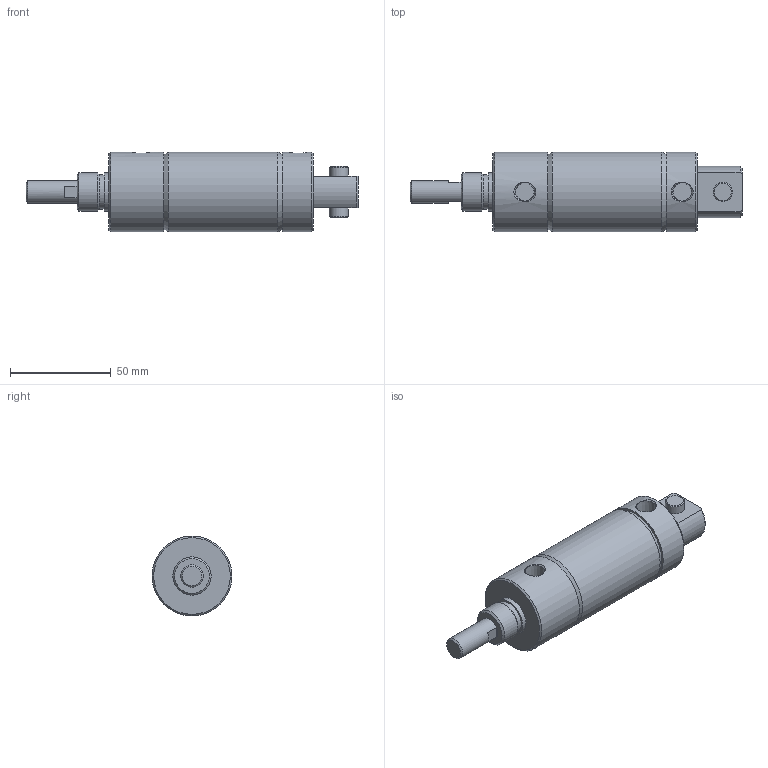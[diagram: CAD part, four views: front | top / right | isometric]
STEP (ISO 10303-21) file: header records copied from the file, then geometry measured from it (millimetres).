
FILE_DESCRIPTION( ( 'STEP AP214' ), '1' );
FILE_NAME( 'p:/temp/worker_504/temp/exporttempdir_5036_332_fAnEg/format_0/1500D02-01A-03.stp', '2020-05-07T18:41:28', ( 'License CC BY-ND 4.0' ), ( 'CADENAS' ), ' ', 'PARTsolutions', ' ' );
FILE_SCHEMA( ( 'AUTOMOTIVE_DESIGN { 1 0 10303 214 1 1 1 1 }' ) );
Length unit declared in the file: inch
Products named in the file (3): 1500D02-01A-03; _1500D02-01A-0300A00A0b; _1500D02-01A-0300A00A0r
Assembly tree (2 placements, depth 2):
  1500D02-01A-03
    _1500D02-01A-0300A00A0b
    _1500D02-01A-0300A00A0r
Bounding box: 165.1 x 39.7 x 39.7 mm (x, y, z)
Volume: 113047.8 mm3; surface area: 38214.8 mm2
Topology: 2 solids, 2 shells, 55 faces, 99 edges, 63 vertices
Faces by surface type: plane 25, cylinder 15, cone 15
Full cylindrical faces by diameter (mm): 9.525 x2, 11.125 x3, 17.178 x1, 19.05 x2, 38.1 x2, 39.7 x3
Entity records: 1834 total; most frequent: CARTESIAN_POINT 348, DIRECTION 228, ORIENTED_EDGE 140, AXIS2_PLACEMENT_3D 106, EDGE_LOOP 96, EDGE_CURVE 70, FACE_OUTER_BOUND 68, VERTEX_POINT 60
